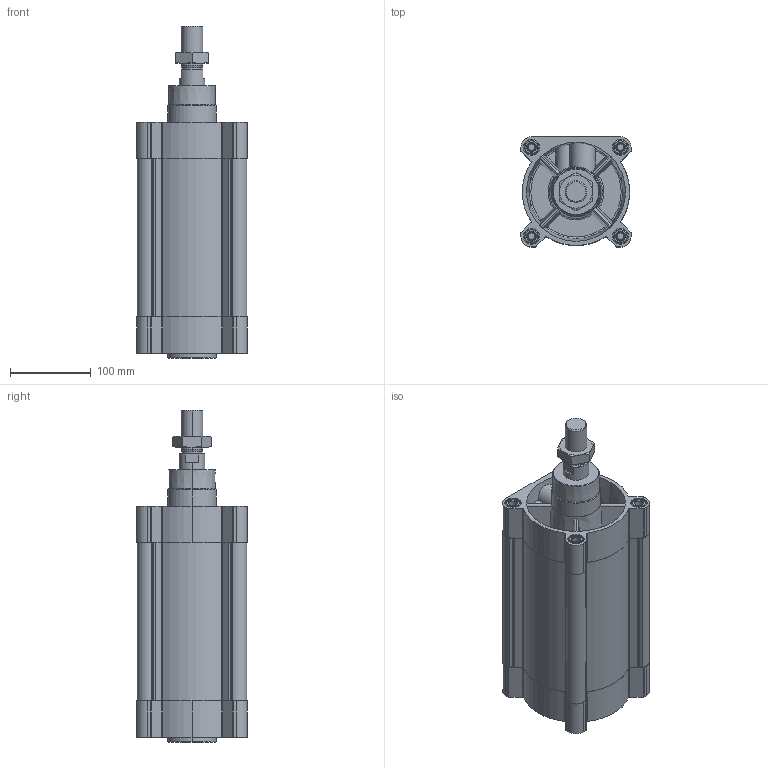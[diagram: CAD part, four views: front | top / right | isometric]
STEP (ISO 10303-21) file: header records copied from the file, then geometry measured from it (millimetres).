
FILE_DESCRIPTION (( 'STEP AP203' ), '1' );
FILE_NAME ('CPME125-125.STEP', '2022-11-03T19:23:56', ( '' ), ( '' ), 'SwSTEP 2.0', 'SolidWorks 2019', '' );
FILE_SCHEMA (( 'CONFIG_CONTROL_DESIGN' ));
Length unit declared in the file: millimetre
Products named in the file (1): CPME125-125
Bounding box: 136 x 136 x 410 mm (x, y, z)
Volume: 2916873.9 mm3; surface area: 480315.5 mm2
Topology: 3 solids, 3 shells, 539 faces, 1371 edges, 878 vertices
Faces by surface type: plane 207, cylinder 206, cone 98, torus 28
Entity records: 19480 total; most frequent: CARTESIAN_POINT 6326, DIRECTION 2767, ORIENTED_EDGE 2742, EDGE_CURVE 1371, AXIS2_PLACEMENT_3D 1051, VERTEX_POINT 878, LINE 665, VECTOR 665
